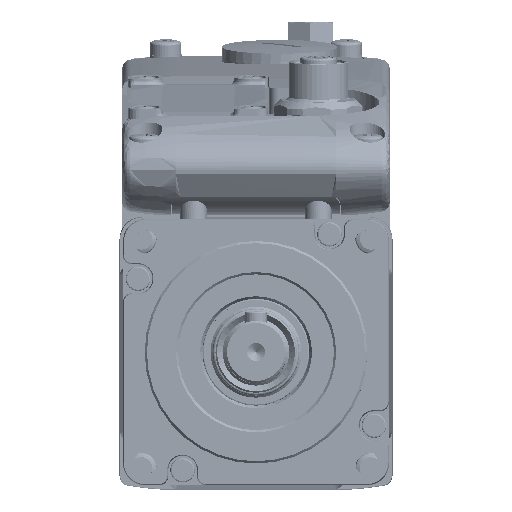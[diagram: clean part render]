
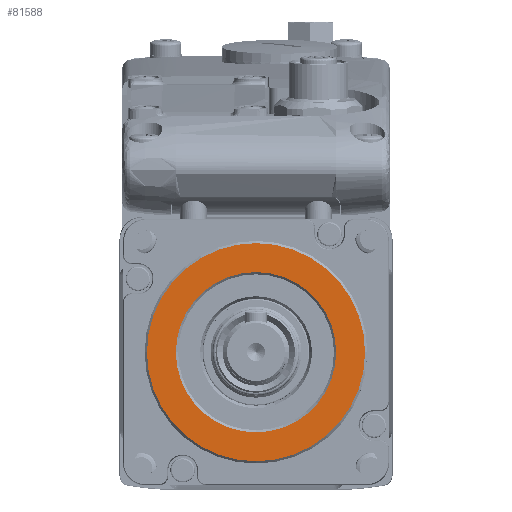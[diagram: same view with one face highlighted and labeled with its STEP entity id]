
A CAD part, top view. The second image highlights one B-rep face of the part: STEP entity #81588.
In plain terms, the highlighted planar face has unit normal (0, 0, 1) as drawn and (0, -1, 0) by its records, which use the part's own axes.
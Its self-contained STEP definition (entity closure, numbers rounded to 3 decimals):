
#3167=CIRCLE('',#85969,24.5);
#3168=CIRCLE('',#85970,18.);
#8608=ORIENTED_EDGE('',*,*,#27075,.F.);
#8609=ORIENTED_EDGE('',*,*,#27076,.T.);
#27075=EDGE_CURVE('',#36299,#36299,#3167,.T.);
#27076=EDGE_CURVE('',#36300,#36300,#3168,.T.);
#36299=VERTEX_POINT('',#112396);
#36300=VERTEX_POINT('',#112398);
#50576=EDGE_LOOP('',(#8608));
#50577=EDGE_LOOP('',(#8609));
#55631=FACE_BOUND('',#50576,.T.);
#55632=FACE_BOUND('',#50577,.T.);
#60667=PLANE('',#85968);
#81588=ADVANCED_FACE('',(#55631,#55632),#60667,.F.);
#85968=AXIS2_PLACEMENT_3D('',#112394,#93365,#93366);
#85969=AXIS2_PLACEMENT_3D('',#112395,#93367,#93368);
#85970=AXIS2_PLACEMENT_3D('',#112397,#93369,#93370);
#93365=DIRECTION('',(0.,1.,0.));
#93366=DIRECTION('',(0.,0.,1.));
#93367=DIRECTION('',(0.,1.,0.));
#93368=DIRECTION('',(0.,0.,1.));
#93369=DIRECTION('',(0.,1.,0.));
#93370=DIRECTION('',(0.,0.,1.));
#112394=CARTESIAN_POINT('',(0.,6.39,25.));
#112395=CARTESIAN_POINT('',(0.,6.39,0.));
#112396=CARTESIAN_POINT('',(0.,6.39,24.5));
#112397=CARTESIAN_POINT('',(0.,6.39,0.));
#112398=CARTESIAN_POINT('',(0.,6.39,18.));
